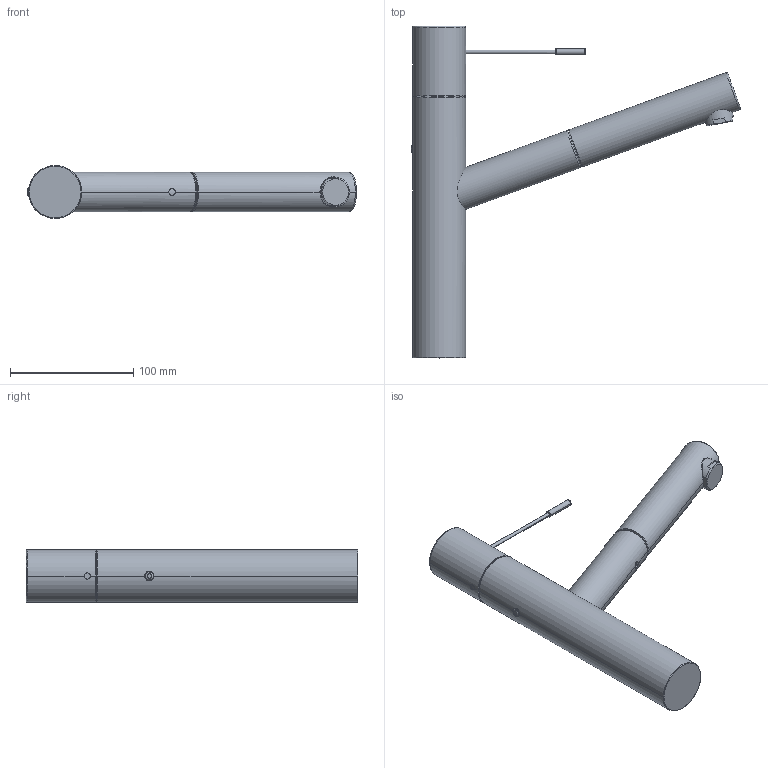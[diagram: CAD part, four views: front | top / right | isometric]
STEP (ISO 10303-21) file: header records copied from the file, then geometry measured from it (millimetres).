
FILE_DESCRIPTION((''),'2;1');
FILE_NAME('10_151_023_XXX','2012-01-04T',('hpf'),(''),'PRO/ENGINEER BY PARAMETRIC TECHNOLOGY CORPORATION, 2011080','PRO/ENGINEER BY PARAMETRIC TECHNOLOGY CORPORATION, 2011080','');
FILE_SCHEMA(('AUTOMOTIVE_DESIGN_CC2 { 1 2 10303 214 -1 1 5 2 }'));
Length unit declared in the file: millimetre
Products named in the file (1): 10_151_023_XXX
Bounding box: 266.91 x 269.15 x 43 mm (x, y, z)
Volume: 581884.6 mm3; surface area: 64934.4 mm2
Topology: 1 solids, 1 shells, 85 faces, 190 edges, 116 vertices
Faces by surface type: cylinder 35, plane 24, torus 22, bspline 2, cone 2
Entity records: 4838 total; most frequent: CARTESIAN_POINT 1889, DIRECTION 421, ORIENTED_EDGE 380, EDGE_CURVE 190, AXIS2_PLACEMENT_3D 182, FILL_AREA_STYLE_COLOUR 164, FILL_AREA_STYLE 164, SURFACE_STYLE_FILL_AREA 164
